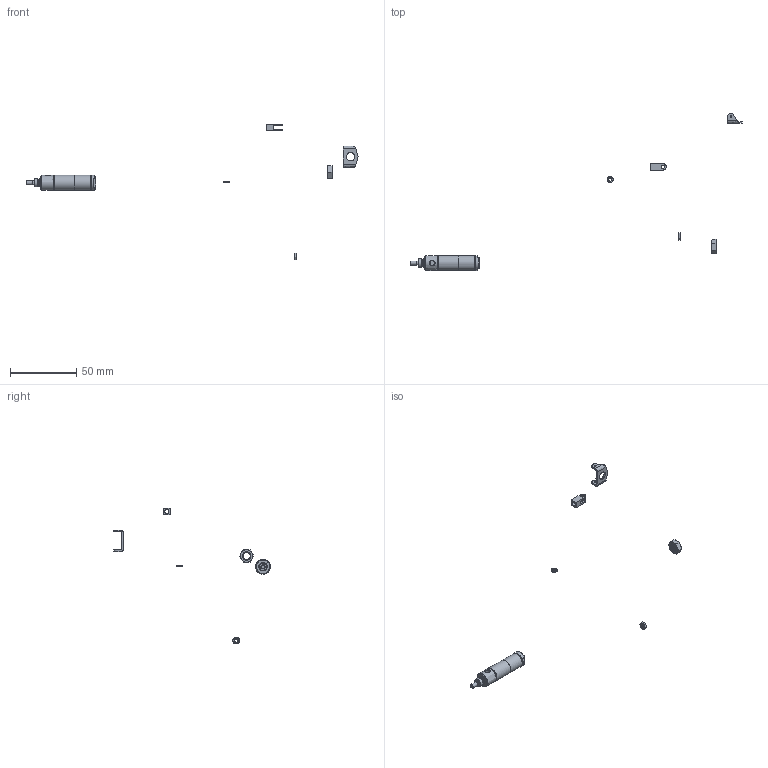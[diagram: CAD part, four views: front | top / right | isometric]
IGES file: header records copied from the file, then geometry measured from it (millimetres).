
Global section: file name: CY-101 SA; native system: Autodesk RealDWG; preprocessor: Autodesk Translation Framework DWG producer (atf_dwg_producer); organization: unknown; date: 20160119.102114; units: centimetre
Bounding box: 250.7 x 118.54 x 102.53 mm (x, y, z)
Volume: 3531 mm3; surface area: 5276.7 mm2
Topology: 7 solids, 7 shells, 147 faces, 378 edges, 256 vertices
Faces by surface type: bspline 147
